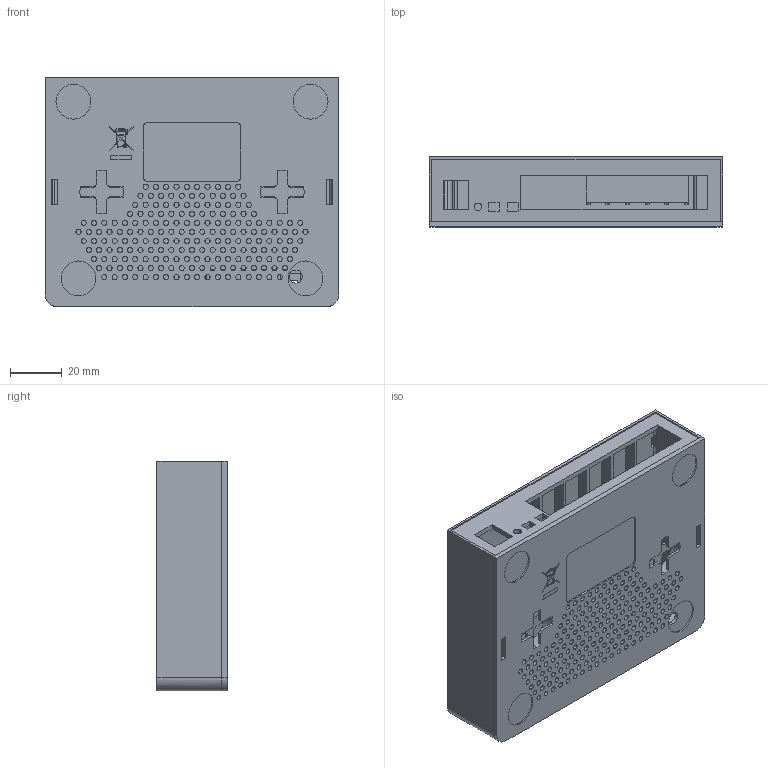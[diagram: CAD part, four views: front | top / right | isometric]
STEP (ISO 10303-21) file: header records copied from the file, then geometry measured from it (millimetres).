
FILE_DESCRIPTION (( 'STEP AP214' ), '1' );
FILE_NAME ('HEXcase.STEP', '2017-01-19T12:56:49', ( '' ), ( '' ), 'SwSTEP 2.0', 'SolidWorks 2016', '' );
FILE_SCHEMA (( 'AUTOMOTIVE_DESIGN' ));
Length unit declared in the file: millimetre
Products named in the file (3): RB750 top V8 9538; HEXcase; RB750 bot V6 9537
Assembly tree (2 placements, depth 2):
  HEXcase
    RB750 top V8 9538
    RB750 bot V6 9537
Bounding box: 114 x 27.2 x 89 mm (x, y, z)
Surface area: 67486.3 mm2 (no closed solid volume)
Topology: 0 solids, 2 shells, 1269 faces, 3997 edges, 2666 vertices
Faces by surface type: plane 635, cylinder 549, bspline 85
Entity records: 64905 total; most frequent: CARTESIAN_POINT 14448, ORIENTED_EDGE 7612, DIRECTION 7216, EDGE_CURVE 3995, VERTEX_POINT 2666, LINE 2596, VECTOR 2596, AXIS2_PLACEMENT_3D 2310
